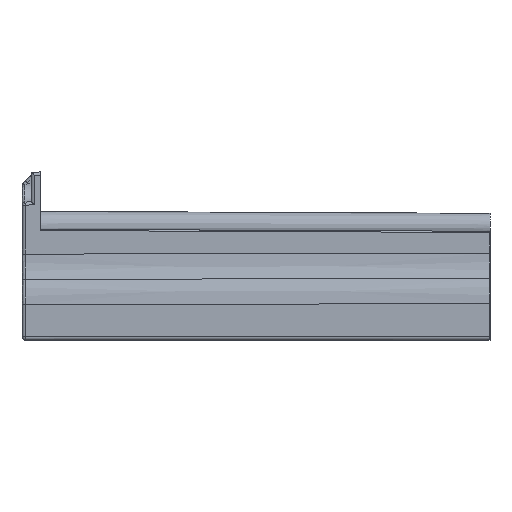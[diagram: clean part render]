
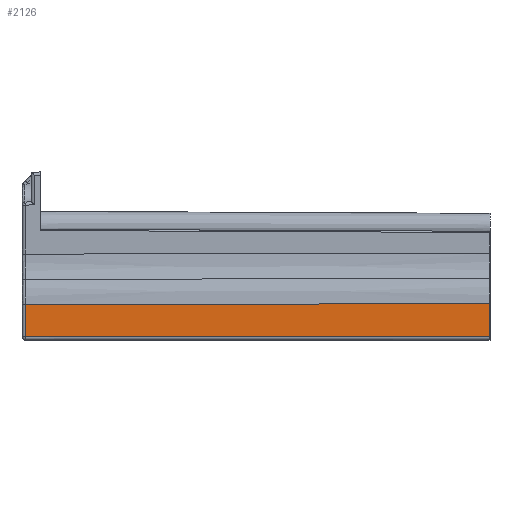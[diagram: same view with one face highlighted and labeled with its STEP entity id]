
A CAD part, left-side view. The second image highlights one B-rep face of the part: STEP entity #2126.
In plain terms, the highlighted planar face has unit normal (-1, 0.004, 0).
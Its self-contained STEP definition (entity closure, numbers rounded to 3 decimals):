
#521 = CARTESIAN_POINT ( 'NONE',  ( -47.082, 0., -3.1 ) ) ;
#737 = VERTEX_POINT ( 'NONE', #5657 ) ;
#914 = CARTESIAN_POINT ( 'NONE',  ( -47.023, 13.333, -3.121 ) ) ;
#934 = EDGE_CURVE ( 'NONE', #1540, #13303, #5700, .T. ) ;
#1431 = CARTESIAN_POINT ( 'NONE',  ( -46.752, 75.502, -8.5 ) ) ;
#1540 = VERTEX_POINT ( 'NONE', #2483 ) ;
#1993 = ORIENTED_EDGE ( 'NONE', *, *, #12357, .T. ) ;
#2057 = CARTESIAN_POINT ( 'NONE',  ( -46.965, 26.666, -3.143 ) ) ;
#2126 = ADVANCED_FACE ( 'NONE', ( #4879 ), #4654, .T. ) ;
#2241 = DIRECTION ( 'NONE',  ( 0., 0., -1. ) ) ;
#2316 = ORIENTED_EDGE ( 'NONE', *, *, #6020, .T. ) ;
#2483 = CARTESIAN_POINT ( 'NONE',  ( -47.082, 0., -8.5 ) ) ;
#2937 = LINE ( 'NONE', #5622, #9998 ) ;
#4176 = CARTESIAN_POINT ( 'NONE',  ( -47.082, 0., 0. ) ) ;
#4654 = PLANE ( 'NONE',  #13818 ) ;
#4879 = FACE_OUTER_BOUND ( 'NONE', #8558, .T. ) ;
#5622 = CARTESIAN_POINT ( 'NONE',  ( -46.752, 75.502, -9. ) ) ;
#5649 = CARTESIAN_POINT ( 'NONE',  ( -46.907, 40., -3.164 ) ) ;
#5657 = CARTESIAN_POINT ( 'NONE',  ( -46.752, 75.502, -3.222 ) ) ;
#5700 = LINE ( 'NONE', #4176, #6294 ) ;
#5859 = ORIENTED_EDGE ( 'NONE', *, *, #9005, .T. ) ;
#6020 = EDGE_CURVE ( 'NONE', #737, #13288, #2937, .T. ) ;
#6294 = VECTOR ( 'NONE', #7757, 1000. ) ;
#6428 = DIRECTION ( 'NONE',  ( -0.004, -1., 0. ) ) ;
#7033 = CARTESIAN_POINT ( 'NONE',  ( -47.082, 0., -3.1 ) ) ;
#7467 = CARTESIAN_POINT ( 'NONE',  ( -46.844, 54.44, -3.188 ) ) ;
#7757 = DIRECTION ( 'NONE',  ( 0., 0., 1. ) ) ;
#8246 = DIRECTION ( 'NONE',  ( -1., 0.004, 0. ) ) ;
#8558 = EDGE_LOOP ( 'NONE', ( #5859, #2316, #1993, #9264 ) ) ;
#8678 = LINE ( 'NONE', #11226, #12533 ) ;
#9005 = EDGE_CURVE ( 'NONE', #13303, #737, #10917, .T. ) ;
#9264 = ORIENTED_EDGE ( 'NONE', *, *, #934, .T. ) ;
#9285 = CARTESIAN_POINT ( 'NONE',  ( -46.813, 61.66, -3.199 ) ) ;
#9304 = CARTESIAN_POINT ( 'NONE',  ( -46.772, 70.888, -3.215 ) ) ;
#9998 = VECTOR ( 'NONE', #2241, 1000. ) ;
#10917 = B_SPLINE_CURVE_WITH_KNOTS ( 'NONE', 3,
 ( #7033, #914, #2057, #5649, #13599, #7467, #9285, #11150, #9304, #13606 ),
 .UNSPECIFIED., .F., .F.,
 ( 4, 3, 3, 4 ),
 ( 0., 0.04, 0.062, 0.076 ),
 .UNSPECIFIED. ) ;
#11150 = CARTESIAN_POINT ( 'NONE',  ( -46.792, 66.274, -3.207 ) ) ;
#11226 = CARTESIAN_POINT ( 'NONE',  ( -46.75, 76., -8.5 ) ) ;
#12357 = EDGE_CURVE ( 'NONE', #13288, #1540, #8678, .T. ) ;
#12533 = VECTOR ( 'NONE', #6428, 1000. ) ;
#12566 = CARTESIAN_POINT ( 'NONE',  ( -46.75, 76., 0. ) ) ;
#13288 = VERTEX_POINT ( 'NONE', #1431 ) ;
#13303 = VERTEX_POINT ( 'NONE', #521 ) ;
#13472 = DIRECTION ( 'NONE',  ( -0.004, -1., 0. ) ) ;
#13599 = CARTESIAN_POINT ( 'NONE',  ( -46.876, 47.22, -3.176 ) ) ;
#13606 = CARTESIAN_POINT ( 'NONE',  ( -46.752, 75.502, -3.222 ) ) ;
#13818 = AXIS2_PLACEMENT_3D ( 'NONE', #12566, #8246, #13472 ) ;
